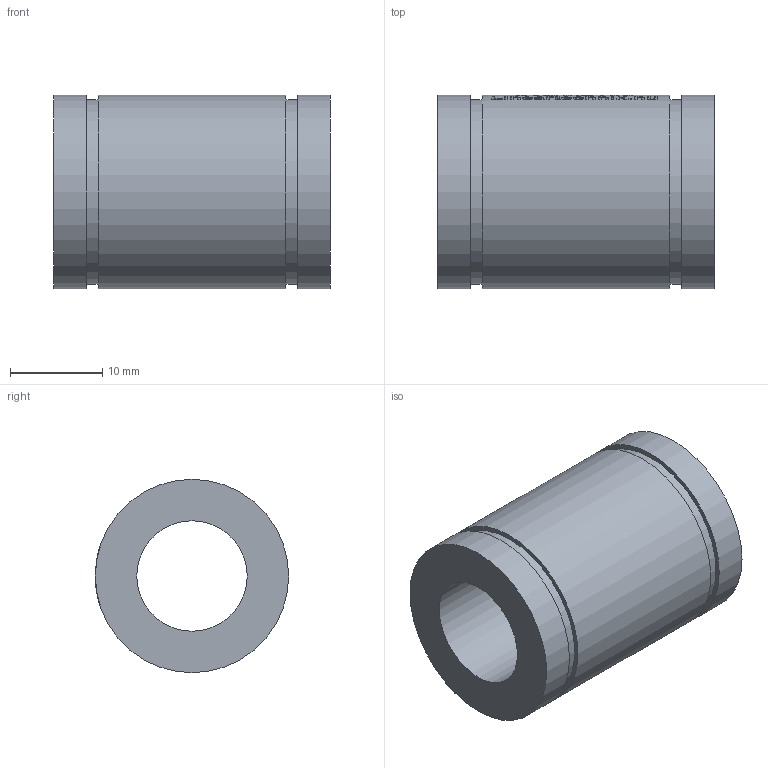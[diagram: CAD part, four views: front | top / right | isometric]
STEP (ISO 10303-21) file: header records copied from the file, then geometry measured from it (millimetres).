
FILE_DESCRIPTION(/* description */ ('Huosing for flange nuts'),/* implementation_level */ '2;1');
FILE_NAME(/* name */ 'LM12UU',/* time_stamp */ '2019-05-07T14:07:39+02:00',/* author */ ('VĂ©gh MĂˇtĂ©'),/* organization */ ('Bearing Kft'),/* preprocessor_version */ 'ST-DEVELOPER v16.7',/* originating_system */ 'DEX',/* authorisation */ $);
FILE_SCHEMA (('AUTOMOTIVE_DESIGN {1 0 10303 214 3 1 1}'));
Length unit declared in the file: millimetre
Products named in the file (1): LM12UU
Bounding box: 30 x 21 x 21 mm (x, y, z)
Volume: 6911.4 mm3; surface area: 3717.7 mm2
Topology: 1 solids, 1 shells, 302 faces, 759 edges, 507 vertices
Faces by surface type: plane 159, bspline 93, cylinder 50
Full cylindrical faces by diameter (mm): 12 x1, 20 x2, 21 x3
Entity records: 15204 total; most frequent: CARTESIAN_POINT 8446, ORIENTED_EDGE 1500, DIRECTION 1126, EDGE_CURVE 750, VERTEX_POINT 505, LINE 416, VECTOR 416, EDGE_LOOP 359
